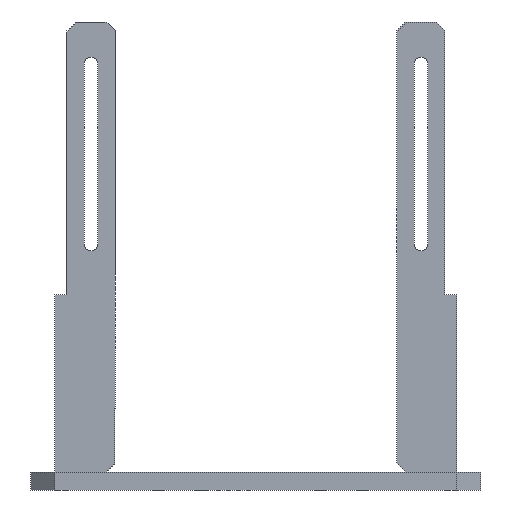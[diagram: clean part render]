
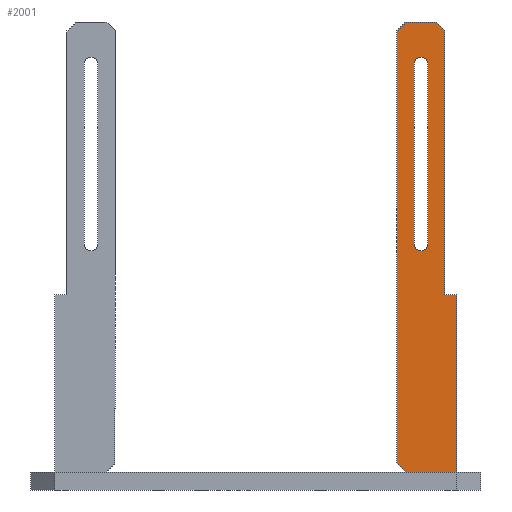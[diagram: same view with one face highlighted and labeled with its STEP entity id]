
A CAD part, front view. The second image highlights one B-rep face of the part: STEP entity #2001.
In plain terms, the highlighted planar face has unit normal (0, -1, 0).
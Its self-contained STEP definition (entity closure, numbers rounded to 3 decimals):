
#9 = LINE ( 'NONE', #796, #1382 ) ;
#17 = VECTOR ( 'NONE', #357, 1000. ) ;
#26 = ORIENTED_EDGE ( 'NONE', *, *, #1011, .F. ) ;
#27 = CARTESIAN_POINT ( 'NONE',  ( 55., -105., 79.7 ) ) ;
#33 = ORIENTED_EDGE ( 'NONE', *, *, #1420, .F. ) ;
#59 = VERTEX_POINT ( 'NONE', #160 ) ;
#62 = CARTESIAN_POINT ( 'NONE',  ( 47., -105., 153. ) ) ;
#67 = VERTEX_POINT ( 'NONE', #1870 ) ;
#69 = CARTESIAN_POINT ( 'NONE',  ( 47., -105., 9. ) ) ;
#71 = DIRECTION ( 'NONE',  ( -1., 0., 0. ) ) ;
#105 = AXIS2_PLACEMENT_3D ( 'NONE', #1667, #1972, #1365 ) ;
#132 = CARTESIAN_POINT ( 'NONE',  ( 50., -105., 156. ) ) ;
#160 = CARTESIAN_POINT ( 'NONE',  ( 67., -105., 6. ) ) ;
#192 = VECTOR ( 'NONE', #893, 1000. ) ;
#218 = DIRECTION ( 'NONE',  ( 0., 0., 1. ) ) ;
#224 = LINE ( 'NONE', #830, #1752 ) ;
#265 = LINE ( 'NONE', #1682, #192 ) ;
#273 = ORIENTED_EDGE ( 'NONE', *, *, #1334, .F. ) ;
#276 = CIRCLE ( 'NONE', #1568, 2.3 ) ;
#289 = AXIS2_PLACEMENT_3D ( 'NONE', #1601, #1328, #1969 ) ;
#302 = EDGE_CURVE ( 'NONE', #1638, #1280, #393, .T. ) ;
#322 = EDGE_CURVE ( 'NONE', #1031, #1845, #1345, .T. ) ;
#333 = VERTEX_POINT ( 'NONE', #69 ) ;
#357 = DIRECTION ( 'NONE',  ( -0.707, 0., 0.707 ) ) ;
#375 = LINE ( 'NONE', #1645, #1065 ) ;
#386 = VECTOR ( 'NONE', #1333, 1000. ) ;
#393 = LINE ( 'NONE', #714, #386 ) ;
#414 = LINE ( 'NONE', #1501, #556 ) ;
#425 = ORIENTED_EDGE ( 'NONE', *, *, #1839, .T. ) ;
#430 = ORIENTED_EDGE ( 'NONE', *, *, #1114, .F. ) ;
#544 = VERTEX_POINT ( 'NONE', #1432 ) ;
#556 = VECTOR ( 'NONE', #71, 1000. ) ;
#558 = ORIENTED_EDGE ( 'NONE', *, *, #1305, .F. ) ;
#560 = ORIENTED_EDGE ( 'NONE', *, *, #1329, .T. ) ;
#561 = EDGE_CURVE ( 'NONE', #544, #1031, #276, .T. ) ;
#578 = CARTESIAN_POINT ( 'NONE',  ( 52.7, -105., 82. ) ) ;
#598 = DIRECTION ( 'NONE',  ( 0., -1., 0. ) ) ;
#630 = DIRECTION ( 'NONE',  ( -1., 0., 0. ) ) ;
#637 = DIRECTION ( 'NONE',  ( 0., 0., -1. ) ) ;
#654 = DIRECTION ( 'NONE',  ( 0., 1., 0. ) ) ;
#709 = ORIENTED_EDGE ( 'NONE', *, *, #322, .T. ) ;
#714 = CARTESIAN_POINT ( 'NONE',  ( 63., -105., 153. ) ) ;
#724 = VECTOR ( 'NONE', #637, 1000. ) ;
#768 = CARTESIAN_POINT ( 'NONE',  ( 52.7, -105., 142. ) ) ;
#770 = CARTESIAN_POINT ( 'NONE',  ( 60., -105., 156. ) ) ;
#785 = PLANE ( 'NONE',  #1912 ) ;
#796 = CARTESIAN_POINT ( 'NONE',  ( 50., -105., 6. ) ) ;
#806 = LINE ( 'NONE', #1441, #17 ) ;
#830 = CARTESIAN_POINT ( 'NONE',  ( 47., -105., 153. ) ) ;
#852 = LINE ( 'NONE', #1597, #724 ) ;
#854 = CARTESIAN_POINT ( 'NONE',  ( 67., -105., 65. ) ) ;
#893 = DIRECTION ( 'NONE',  ( 0., 0., -1. ) ) ;
#902 = FACE_OUTER_BOUND ( 'NONE', #1726, .T. ) ;
#908 = VERTEX_POINT ( 'NONE', #1180 ) ;
#948 = VECTOR ( 'NONE', #1979, 1000. ) ;
#950 = ORIENTED_EDGE ( 'NONE', *, *, #1974, .F. ) ;
#956 = EDGE_CURVE ( 'NONE', #1845, #1960, #375, .T. ) ;
#1001 = CARTESIAN_POINT ( 'NONE',  ( 63., -105., 153. ) ) ;
#1011 = EDGE_CURVE ( 'NONE', #67, #59, #1453, .T. ) ;
#1031 = VERTEX_POINT ( 'NONE', #27 ) ;
#1033 = VECTOR ( 'NONE', #1825, 1000. ) ;
#1065 = VECTOR ( 'NONE', #218, 1000. ) ;
#1079 = CARTESIAN_POINT ( 'NONE',  ( 0., -105., 0. ) ) ;
#1091 = LINE ( 'NONE', #2054, #1619 ) ;
#1114 = EDGE_CURVE ( 'NONE', #59, #1627, #9, .T. ) ;
#1180 = CARTESIAN_POINT ( 'NONE',  ( 57.3, -105., 142. ) ) ;
#1249 = FACE_BOUND ( 'NONE', #2004, .T. ) ;
#1272 = CARTESIAN_POINT ( 'NONE',  ( 55., -105., 82. ) ) ;
#1280 = VERTEX_POINT ( 'NONE', #1001 ) ;
#1305 = EDGE_CURVE ( 'NONE', #333, #1809, #224, .T. ) ;
#1323 = ORIENTED_EDGE ( 'NONE', *, *, #1732, .F. ) ;
#1328 = DIRECTION ( 'NONE',  ( 0., 1., 0. ) ) ;
#1329 = EDGE_CURVE ( 'NONE', #1960, #908, #2043, .T. ) ;
#1333 = DIRECTION ( 'NONE',  ( 0.707, 0., -0.707 ) ) ;
#1334 = EDGE_CURVE ( 'NONE', #1627, #333, #806, .T. ) ;
#1345 = CIRCLE ( 'NONE', #105, 2.3 ) ;
#1351 = LINE ( 'NONE', #2019, #948 ) ;
#1364 = ORIENTED_EDGE ( 'NONE', *, *, #302, .F. ) ;
#1365 = DIRECTION ( 'NONE',  ( 0., 0., 1. ) ) ;
#1379 = DIRECTION ( 'NONE',  ( 0.707, 0., 0.707 ) ) ;
#1382 = VECTOR ( 'NONE', #630, 1000. ) ;
#1420 = EDGE_CURVE ( 'NONE', #1966, #1638, #1351, .T. ) ;
#1423 = DIRECTION ( 'NONE',  ( 0., 0., 1. ) ) ;
#1432 = CARTESIAN_POINT ( 'NONE',  ( 57.3, -105., 82. ) ) ;
#1441 = CARTESIAN_POINT ( 'NONE',  ( 47., -105., 9. ) ) ;
#1453 = LINE ( 'NONE', #854, #1033 ) ;
#1492 = DIRECTION ( 'NONE',  ( 0., 0., 1. ) ) ;
#1501 = CARTESIAN_POINT ( 'NONE',  ( 67., -105., 65. ) ) ;
#1538 = ORIENTED_EDGE ( 'NONE', *, *, #956, .T. ) ;
#1541 = ORIENTED_EDGE ( 'NONE', *, *, #561, .T. ) ;
#1568 = AXIS2_PLACEMENT_3D ( 'NONE', #1272, #654, #1423 ) ;
#1597 = CARTESIAN_POINT ( 'NONE',  ( 63., -105., 9. ) ) ;
#1601 = CARTESIAN_POINT ( 'NONE',  ( 55., -105., 142. ) ) ;
#1619 = VECTOR ( 'NONE', #1379, 1000. ) ;
#1627 = VERTEX_POINT ( 'NONE', #1724 ) ;
#1638 = VERTEX_POINT ( 'NONE', #770 ) ;
#1645 = CARTESIAN_POINT ( 'NONE',  ( 52.7, -105., 82. ) ) ;
#1667 = CARTESIAN_POINT ( 'NONE',  ( 55., -105., 82. ) ) ;
#1672 = VERTEX_POINT ( 'NONE', #1804 ) ;
#1682 = CARTESIAN_POINT ( 'NONE',  ( 57.3, -105., 142. ) ) ;
#1724 = CARTESIAN_POINT ( 'NONE',  ( 50., -105., 6. ) ) ;
#1726 = EDGE_LOOP ( 'NONE', ( #425, #1323, #1364, #33, #950, #558, #273, #430, #26 ) ) ;
#1732 = EDGE_CURVE ( 'NONE', #1280, #1672, #852, .T. ) ;
#1752 = VECTOR ( 'NONE', #1492, 1000. ) ;
#1804 = CARTESIAN_POINT ( 'NONE',  ( 63., -105., 65. ) ) ;
#1809 = VERTEX_POINT ( 'NONE', #62 ) ;
#1825 = DIRECTION ( 'NONE',  ( 0., 0., -1. ) ) ;
#1839 = EDGE_CURVE ( 'NONE', #67, #1672, #414, .T. ) ;
#1845 = VERTEX_POINT ( 'NONE', #578 ) ;
#1862 = DIRECTION ( 'NONE',  ( 0., 0., -1. ) ) ;
#1870 = CARTESIAN_POINT ( 'NONE',  ( 67., -105., 65. ) ) ;
#1912 = AXIS2_PLACEMENT_3D ( 'NONE', #1079, #598, #1862 ) ;
#1919 = EDGE_CURVE ( 'NONE', #908, #544, #265, .T. ) ;
#1960 = VERTEX_POINT ( 'NONE', #768 ) ;
#1966 = VERTEX_POINT ( 'NONE', #132 ) ;
#1969 = DIRECTION ( 'NONE',  ( 0., 0., 1. ) ) ;
#1972 = DIRECTION ( 'NONE',  ( 0., 1., 0. ) ) ;
#1974 = EDGE_CURVE ( 'NONE', #1809, #1966, #1091, .T. ) ;
#1979 = DIRECTION ( 'NONE',  ( 1., 0., 0. ) ) ;
#1982 = ORIENTED_EDGE ( 'NONE', *, *, #1919, .T. ) ;
#2001 = ADVANCED_FACE ( 'NONE', ( #902, #1249 ), #785, .T. ) ;
#2004 = EDGE_LOOP ( 'NONE', ( #1982, #1541, #709, #1538, #560 ) ) ;
#2019 = CARTESIAN_POINT ( 'NONE',  ( 60., -105., 156. ) ) ;
#2043 = CIRCLE ( 'NONE', #289, 2.3 ) ;
#2054 = CARTESIAN_POINT ( 'NONE',  ( 50., -105., 156. ) ) ;
